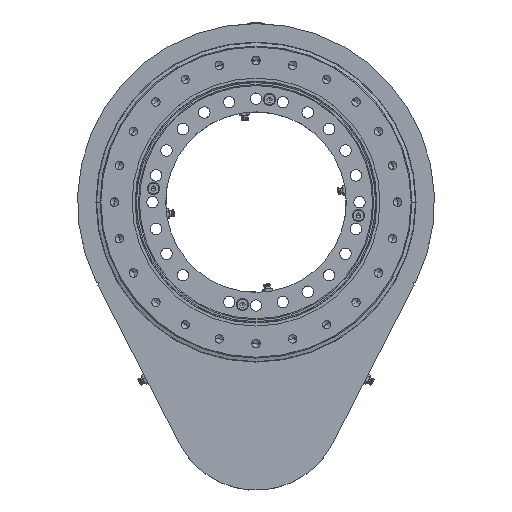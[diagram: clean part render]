
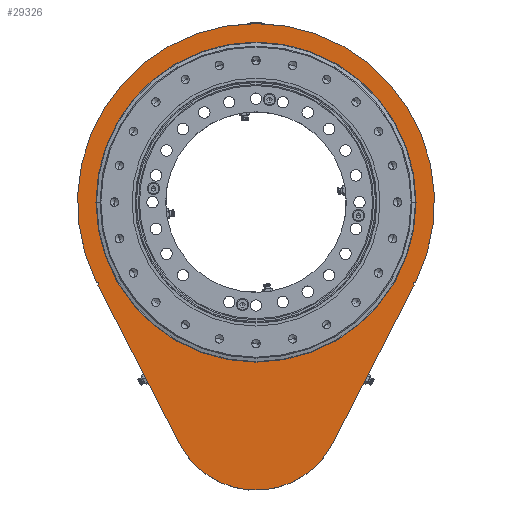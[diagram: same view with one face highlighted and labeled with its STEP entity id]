
A CAD part, top view. The second image highlights one B-rep face of the part: STEP entity #29326.
In plain terms, the highlighted planar face has unit normal (0, 0, 1).
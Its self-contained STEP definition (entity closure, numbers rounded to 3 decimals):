
#5038=DIRECTION('',(0.951,0.31,0.));
#5039=VECTOR('',#5038,2.835);
#5040=CARTESIAN_POINT('',(191.643,-98.545,82.));
#5041=LINE('',#5040,#5039);
#5045=DIRECTION('',(-0.305,0.952,0.));
#5046=VECTOR('',#5045,2.835);
#5047=CARTESIAN_POINT('',(192.509,-101.245,82.));
#5048=LINE('',#5047,#5046);
#5052=DIRECTION('',(0.457,0.889,0.));
#5053=VECTOR('',#5052,216.769);
#5054=CARTESIAN_POINT('',(93.377,-294.018,82.));
#5055=LINE('',#5054,#5053);
#5059=CARTESIAN_POINT('',(0.,-246.,82.));
#5060=DIRECTION('',(0.,0.,1.));
#5061=DIRECTION('',(-0.889,-0.457,0.));
#5062=AXIS2_PLACEMENT_3D('',#5059,#5060,#5061);
#5067=DIRECTION('',(0.457,-0.889,0.));
#5068=VECTOR('',#5067,216.769);
#5069=CARTESIAN_POINT('',(-192.509,-101.245,82.));
#5070=LINE('',#5069,#5068);
#5074=DIRECTION('',(-0.305,-0.952,0.));
#5075=VECTOR('',#5074,2.835);
#5076=CARTESIAN_POINT('',(-191.643,-98.545,82.));
#5077=LINE('',#5076,#5075);
#5081=DIRECTION('',(0.951,-0.31,0.));
#5082=VECTOR('',#5081,2.835);
#5083=CARTESIAN_POINT('',(-194.339,-97.667,82.));
#5084=LINE('',#5083,#5082);
#5088=CARTESIAN_POINT('',(0.,0.,82.));
#5089=DIRECTION('',(0.,0.,1.));
#5090=DIRECTION('',(0.894,-0.449,0.));
#5091=AXIS2_PLACEMENT_3D('',#5088,#5089,#5090);
#5096=CARTESIAN_POINT('',(0.,0.,82.));
#5097=DIRECTION('',(0.,0.,-1.));
#5098=DIRECTION('',(-1.,0.,0.));
#5099=AXIS2_PLACEMENT_3D('',#5096,#5097,#5098);
#5118=CARTESIAN_POINT('',(0.,0.,82.));
#5119=DIRECTION('',(0.,0.,1.));
#5120=DIRECTION('',(-1.,0.,0.));
#5121=AXIS2_PLACEMENT_3D('',#5118,#5119,#5120);
#21975=CARTESIAN_POINT('',(-194.339,-97.667,82.));
#21977=VERTEX_POINT('',#21975);
#21979=CARTESIAN_POINT('',(194.339,-97.667,82.));
#21981=VERTEX_POINT('',#21979);
#21993=CARTESIAN_POINT('',(-93.377,-294.018,82.));
#21994=CARTESIAN_POINT('',(93.377,-294.018,82.));
#21995=VERTEX_POINT('',#21993);
#21996=VERTEX_POINT('',#21994);
#21997=CARTESIAN_POINT('',(-192.509,-101.245,82.));
#21999=VERTEX_POINT('',#21997);
#22001=CARTESIAN_POINT('',(192.509,-101.245,82.));
#22003=VERTEX_POINT('',#22001);
#22006=CARTESIAN_POINT('',(191.643,-98.545,82.));
#22008=VERTEX_POINT('',#22006);
#22010=CARTESIAN_POINT('',(-191.643,-98.545,82.));
#22012=VERTEX_POINT('',#22010);
#24751=CARTESIAN_POINT('',(-195.,0.,82.));
#24753=VERTEX_POINT('',#24751);
#24761=CARTESIAN_POINT('',(195.,0.,82.));
#24763=VERTEX_POINT('',#24761);
#29299=CARTESIAN_POINT('',(0.,0.,82.));
#29300=DIRECTION('',(0.,0.,1.));
#29301=DIRECTION('',(1.,0.,0.));
#29302=AXIS2_PLACEMENT_3D('',#29299,#29300,#29301);
#29303=PLANE('',#29302);
#29305=ORIENTED_EDGE('',*,*,#29304,.F.);
#29307=ORIENTED_EDGE('',*,*,#29306,.F.);
#29309=ORIENTED_EDGE('',*,*,#29308,.F.);
#29311=ORIENTED_EDGE('',*,*,#29310,.F.);
#29313=ORIENTED_EDGE('',*,*,#29312,.F.);
#29314=ORIENTED_EDGE('',*,*,#29284,.F.);
#29315=ORIENTED_EDGE('',*,*,#29266,.F.);
#29317=ORIENTED_EDGE('',*,*,#29316,.F.);
#29318=EDGE_LOOP('',(#29305,#29307,#29309,#29311,#29313,#29314,#29315,#29317));
#29319=FACE_OUTER_BOUND('',#29318,.F.);
#29321=ORIENTED_EDGE('',*,*,#29320,.F.);
#29323=ORIENTED_EDGE('',*,*,#29322,.T.);
#29324=EDGE_LOOP('',(#29321,#29323));
#29325=FACE_BOUND('',#29324,.F.);
#5063=CIRCLE('',#5062,105.);
#5092=CIRCLE('',#5091,217.5);
#5100=CIRCLE('',#5099,195.);
#5122=CIRCLE('',#5121,195.);
#29266=EDGE_CURVE('',#21977,#22012,#5084,.T.);
#29284=EDGE_CURVE('',#22012,#21999,#5077,.T.);
#29304=EDGE_CURVE('',#22008,#21981,#5041,.T.);
#29306=EDGE_CURVE('',#22003,#22008,#5048,.T.);
#29308=EDGE_CURVE('',#21996,#22003,#5055,.T.);
#29310=EDGE_CURVE('',#21995,#21996,#5063,.T.);
#29312=EDGE_CURVE('',#21999,#21995,#5070,.T.);
#29316=EDGE_CURVE('',#21981,#21977,#5092,.T.);
#29320=EDGE_CURVE('',#24753,#24763,#5100,.T.);
#29322=EDGE_CURVE('',#24753,#24763,#5122,.T.);
#29326=ADVANCED_FACE('',(#29319,#29325),#29303,.T.);
